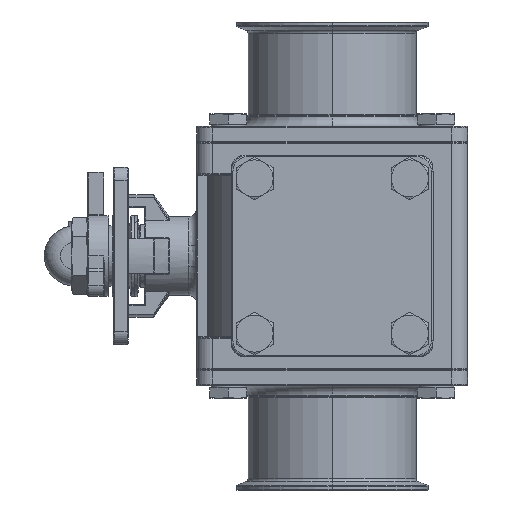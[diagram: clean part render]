
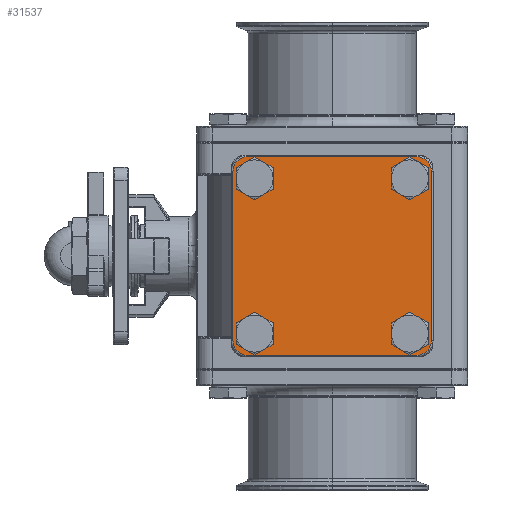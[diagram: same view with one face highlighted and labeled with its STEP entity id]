
A CAD part, left-side view. The second image highlights one B-rep face of the part: STEP entity #31537.
In plain terms, the highlighted planar face has unit normal (-1, 0, 0) as drawn and (0, 0, 1) by its records, which use the part's own axes.
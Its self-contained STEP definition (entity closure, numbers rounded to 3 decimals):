
#376 = CIRCLE ( 'NONE', #18868, 8.75 ) ;
#732 = CARTESIAN_POINT ( 'NONE',  ( 52.5, -52.5, 10. ) ) ;
#772 = FACE_BOUND ( 'NONE', #14001, .T. ) ;
#778 = EDGE_CURVE ( 'NONE', #4475, #28981, #2867, .T. ) ;
#1688 = CIRCLE ( 'NONE', #12218, 9. ) ;
#1858 = EDGE_CURVE ( 'NONE', #10447, #4904, #27067, .T. ) ;
#2082 = AXIS2_PLACEMENT_3D ( 'NONE', #25447, #19536, #33986 ) ;
#2234 = DIRECTION ( 'NONE',  ( 0., 0., 1. ) ) ;
#2321 = CARTESIAN_POINT ( 'NONE',  ( 52.5, 61.5, 10. ) ) ;
#2586 = CARTESIAN_POINT ( 'NONE',  ( -48.083, -48.083, 10. ) ) ;
#2867 = CIRCLE ( 'NONE', #16624, 9. ) ;
#3024 = VECTOR ( 'NONE', #14073, 1000. ) ;
#3334 = DIRECTION ( 'NONE',  ( 0., 0., 1. ) ) ;
#3384 = DIRECTION ( 'NONE',  ( 0., 0., 1. ) ) ;
#3586 = DIRECTION ( 'NONE',  ( 1., 0., 0. ) ) ;
#3760 = CARTESIAN_POINT ( 'NONE',  ( -48.083, -48.083, 10. ) ) ;
#4076 = DIRECTION ( 'NONE',  ( 0., 0., 1. ) ) ;
#4475 = VERTEX_POINT ( 'NONE', #22590 ) ;
#4904 = VERTEX_POINT ( 'NONE', #36224 ) ;
#4963 = CARTESIAN_POINT ( 'NONE',  ( 48.083, -48.083, 10. ) ) ;
#5220 = AXIS2_PLACEMENT_3D ( 'NONE', #9893, #10013, #18555 ) ;
#5290 = ORIENTED_EDGE ( 'NONE', *, *, #23312, .F. ) ;
#5706 = CARTESIAN_POINT ( 'NONE',  ( -52.5, 61.5, 10. ) ) ;
#5738 = ORIENTED_EDGE ( 'NONE', *, *, #1858, .F. ) ;
#5845 = DIRECTION ( 'NONE',  ( 0., 0., 1. ) ) ;
#5855 = CARTESIAN_POINT ( 'NONE',  ( -39.333, -48.083, 10. ) ) ;
#5948 = DIRECTION ( 'NONE',  ( 1., 0., 0. ) ) ;
#5965 = CARTESIAN_POINT ( 'NONE',  ( 39.333, -48.083, 10. ) ) ;
#6138 = VECTOR ( 'NONE', #15068, 1000. ) ;
#6231 = CARTESIAN_POINT ( 'NONE',  ( 39.333, 48.083, 10. ) ) ;
#6353 = EDGE_CURVE ( 'NONE', #7048, #17023, #13054, .T. ) ;
#6449 = FACE_BOUND ( 'NONE', #26177, .T. ) ;
#6593 = EDGE_LOOP ( 'NONE', ( #32574, #8487, #32829, #25555, #25529, #12445, #36478, #20031 ) ) ;
#6613 = VECTOR ( 'NONE', #5948, 1000. ) ;
#6795 = CARTESIAN_POINT ( 'NONE',  ( 61.5, 52.5, 10. ) ) ;
#6934 = VERTEX_POINT ( 'NONE', #22479 ) ;
#7048 = VERTEX_POINT ( 'NONE', #5965 ) ;
#7174 = AXIS2_PLACEMENT_3D ( 'NONE', #34116, #17706, #9063 ) ;
#7187 = AXIS2_PLACEMENT_3D ( 'NONE', #4963, #24665, #19101 ) ;
#7730 = CARTESIAN_POINT ( 'NONE',  ( 48.083, 48.083, 10. ) ) ;
#8446 = EDGE_CURVE ( 'NONE', #20344, #16891, #29320, .T. ) ;
#8487 = ORIENTED_EDGE ( 'NONE', *, *, #8446, .T. ) ;
#8554 = CARTESIAN_POINT ( 'NONE',  ( -61.5, -52.5, 10. ) ) ;
#8720 = VERTEX_POINT ( 'NONE', #6231 ) ;
#8817 = EDGE_CURVE ( 'NONE', #4904, #10447, #9807, .T. ) ;
#9063 = DIRECTION ( 'NONE',  ( 1., 0., 0. ) ) ;
#9160 = PLANE ( 'NONE',  #19468 ) ;
#9237 = VERTEX_POINT ( 'NONE', #15554 ) ;
#9807 = CIRCLE ( 'NONE', #5220, 8.75 ) ;
#9812 = DIRECTION ( 'NONE',  ( 1., 0., 0. ) ) ;
#9893 = CARTESIAN_POINT ( 'NONE',  ( -48.083, 48.083, 10. ) ) ;
#10013 = DIRECTION ( 'NONE',  ( 0., 0., 1. ) ) ;
#10179 = CARTESIAN_POINT ( 'NONE',  ( -48.083, 48.083, 10. ) ) ;
#10447 = VERTEX_POINT ( 'NONE', #24994 ) ;
#10531 = ORIENTED_EDGE ( 'NONE', *, *, #6353, .F. ) ;
#10597 = LINE ( 'NONE', #14746, #11051 ) ;
#10731 = AXIS2_PLACEMENT_3D ( 'NONE', #732, #22876, #25838 ) ;
#11051 = VECTOR ( 'NONE', #20661, 1000. ) ;
#11610 = EDGE_CURVE ( 'NONE', #30457, #30057, #24717, .T. ) ;
#11818 = DIRECTION ( 'NONE',  ( 1., 0., 0. ) ) ;
#11819 = CARTESIAN_POINT ( 'NONE',  ( 61.5, 52.5, 10. ) ) ;
#11821 = CARTESIAN_POINT ( 'NONE',  ( 52.5, -61.5, 10. ) ) ;
#11925 = AXIS2_PLACEMENT_3D ( 'NONE', #7730, #2234, #21055 ) ;
#12154 = FACE_OUTER_BOUND ( 'NONE', #6593, .T. ) ;
#12218 = AXIS2_PLACEMENT_3D ( 'NONE', #17043, #34200, #16933 ) ;
#12288 = EDGE_CURVE ( 'NONE', #30352, #6934, #16271, .T. ) ;
#12445 = ORIENTED_EDGE ( 'NONE', *, *, #20199, .T. ) ;
#13054 = CIRCLE ( 'NONE', #7187, 8.75 ) ;
#13597 = LINE ( 'NONE', #6795, #6138 ) ;
#14001 = EDGE_LOOP ( 'NONE', ( #26793, #5738 ) ) ;
#14036 = CARTESIAN_POINT ( 'NONE',  ( -61.5, 52.5, 10. ) ) ;
#14073 = DIRECTION ( 'NONE',  ( -1., 0., 0. ) ) ;
#14352 = CARTESIAN_POINT ( 'NONE',  ( 56.833, -48.083, 10. ) ) ;
#14589 = CIRCLE ( 'NONE', #36291, 8.75 ) ;
#14746 = CARTESIAN_POINT ( 'NONE',  ( -61.5, -52.5, 10. ) ) ;
#14881 = DIRECTION ( 'NONE',  ( 1., 0., 0. ) ) ;
#15068 = DIRECTION ( 'NONE',  ( 0., 1., 0. ) ) ;
#15554 = CARTESIAN_POINT ( 'NONE',  ( 56.833, 48.083, 10. ) ) ;
#16271 = CIRCLE ( 'NONE', #25134, 8.75 ) ;
#16624 = AXIS2_PLACEMENT_3D ( 'NONE', #20670, #4076, #14881 ) ;
#16787 = VERTEX_POINT ( 'NONE', #24253 ) ;
#16864 = DIRECTION ( 'NONE',  ( 1., 0., 0. ) ) ;
#16891 = VERTEX_POINT ( 'NONE', #2321 ) ;
#16933 = DIRECTION ( 'NONE',  ( 1., 0., 0. ) ) ;
#17023 = VERTEX_POINT ( 'NONE', #14352 ) ;
#17043 = CARTESIAN_POINT ( 'NONE',  ( -52.5, -52.5, 10. ) ) ;
#17396 = ORIENTED_EDGE ( 'NONE', *, *, #25640, .F. ) ;
#17706 = DIRECTION ( 'NONE',  ( 0., 0., 1. ) ) ;
#18555 = DIRECTION ( 'NONE',  ( 1., 0., 0. ) ) ;
#18868 = AXIS2_PLACEMENT_3D ( 'NONE', #2586, #27714, #16864 ) ;
#19101 = DIRECTION ( 'NONE',  ( 1., 0., 0. ) ) ;
#19468 = AXIS2_PLACEMENT_3D ( 'NONE', #20012, #5845, #25569 ) ;
#19536 = DIRECTION ( 'NONE',  ( 0., 0., 1. ) ) ;
#19712 = EDGE_CURVE ( 'NONE', #30057, #16787, #21521, .T. ) ;
#20012 = CARTESIAN_POINT ( 'NONE',  ( 52.5, -52.5, 10. ) ) ;
#20031 = ORIENTED_EDGE ( 'NONE', *, *, #19712, .T. ) ;
#20199 = EDGE_CURVE ( 'NONE', #29605, #30457, #1688, .T. ) ;
#20344 = VERTEX_POINT ( 'NONE', #11819 ) ;
#20661 = DIRECTION ( 'NONE',  ( 0., -1., 0. ) ) ;
#20670 = CARTESIAN_POINT ( 'NONE',  ( -52.5, 52.5, 10. ) ) ;
#21055 = DIRECTION ( 'NONE',  ( 1., 0., 0. ) ) ;
#21491 = EDGE_CURVE ( 'NONE', #28981, #29605, #10597, .T. ) ;
#21521 = CIRCLE ( 'NONE', #10731, 9. ) ;
#22479 = CARTESIAN_POINT ( 'NONE',  ( -56.833, -48.083, 10. ) ) ;
#22590 = CARTESIAN_POINT ( 'NONE',  ( -52.5, 61.5, 10. ) ) ;
#22876 = DIRECTION ( 'NONE',  ( 0., 0., 1. ) ) ;
#23158 = ORIENTED_EDGE ( 'NONE', *, *, #12288, .F. ) ;
#23232 = FACE_BOUND ( 'NONE', #25736, .T. ) ;
#23312 = EDGE_CURVE ( 'NONE', #17023, #7048, #27311, .T. ) ;
#23347 = LINE ( 'NONE', #5706, #3024 ) ;
#23738 = EDGE_CURVE ( 'NONE', #16891, #4475, #23347, .T. ) ;
#24106 = FACE_BOUND ( 'NONE', #33177, .T. ) ;
#24253 = CARTESIAN_POINT ( 'NONE',  ( 61.5, -52.5, 10. ) ) ;
#24665 = DIRECTION ( 'NONE',  ( 0., 0., 1. ) ) ;
#24717 = LINE ( 'NONE', #11821, #6613 ) ;
#24994 = CARTESIAN_POINT ( 'NONE',  ( -39.333, 48.083, 10. ) ) ;
#25134 = AXIS2_PLACEMENT_3D ( 'NONE', #3760, #3384, #11818 ) ;
#25447 = CARTESIAN_POINT ( 'NONE',  ( 52.5, 52.5, 10. ) ) ;
#25529 = ORIENTED_EDGE ( 'NONE', *, *, #21491, .T. ) ;
#25555 = ORIENTED_EDGE ( 'NONE', *, *, #778, .T. ) ;
#25569 = DIRECTION ( 'NONE',  ( 1., 0., 0. ) ) ;
#25640 = EDGE_CURVE ( 'NONE', #8720, #9237, #14589, .T. ) ;
#25736 = EDGE_LOOP ( 'NONE', ( #17396, #31370 ) ) ;
#25838 = DIRECTION ( 'NONE',  ( 1., 0., 0. ) ) ;
#26177 = EDGE_LOOP ( 'NONE', ( #26572, #23158 ) ) ;
#26572 = ORIENTED_EDGE ( 'NONE', *, *, #29409, .F. ) ;
#26793 = ORIENTED_EDGE ( 'NONE', *, *, #8817, .F. ) ;
#27067 = CIRCLE ( 'NONE', #31093, 8.75 ) ;
#27311 = CIRCLE ( 'NONE', #7174, 8.75 ) ;
#27587 = CIRCLE ( 'NONE', #11925, 8.75 ) ;
#27714 = DIRECTION ( 'NONE',  ( 0., 0., 1. ) ) ;
#28182 = CARTESIAN_POINT ( 'NONE',  ( -52.5, -61.5, 10. ) ) ;
#28981 = VERTEX_POINT ( 'NONE', #14036 ) ;
#29320 = CIRCLE ( 'NONE', #2082, 9. ) ;
#29409 = EDGE_CURVE ( 'NONE', #6934, #30352, #376, .T. ) ;
#29598 = DIRECTION ( 'NONE',  ( 0., 0., 1. ) ) ;
#29605 = VERTEX_POINT ( 'NONE', #8554 ) ;
#30057 = VERTEX_POINT ( 'NONE', #33186 ) ;
#30352 = VERTEX_POINT ( 'NONE', #5855 ) ;
#30457 = VERTEX_POINT ( 'NONE', #28182 ) ;
#31093 = AXIS2_PLACEMENT_3D ( 'NONE', #10179, #29598, #9812 ) ;
#31370 = ORIENTED_EDGE ( 'NONE', *, *, #32402, .F. ) ;
#31537 = ADVANCED_FACE ( 'NONE', ( #12154, #6449, #23232, #24106, #772 ), #9160, .T. ) ;
#31570 = CARTESIAN_POINT ( 'NONE',  ( 48.083, 48.083, 10. ) ) ;
#32402 = EDGE_CURVE ( 'NONE', #9237, #8720, #27587, .T. ) ;
#32574 = ORIENTED_EDGE ( 'NONE', *, *, #33880, .T. ) ;
#32829 = ORIENTED_EDGE ( 'NONE', *, *, #23738, .T. ) ;
#33177 = EDGE_LOOP ( 'NONE', ( #10531, #5290 ) ) ;
#33186 = CARTESIAN_POINT ( 'NONE',  ( 52.5, -61.5, 10. ) ) ;
#33880 = EDGE_CURVE ( 'NONE', #16787, #20344, #13597, .T. ) ;
#33986 = DIRECTION ( 'NONE',  ( 1., 0., 0. ) ) ;
#34116 = CARTESIAN_POINT ( 'NONE',  ( 48.083, -48.083, 10. ) ) ;
#34200 = DIRECTION ( 'NONE',  ( 0., 0., 1. ) ) ;
#36224 = CARTESIAN_POINT ( 'NONE',  ( -56.833, 48.083, 10. ) ) ;
#36291 = AXIS2_PLACEMENT_3D ( 'NONE', #31570, #3334, #3586 ) ;
#36478 = ORIENTED_EDGE ( 'NONE', *, *, #11610, .T. ) ;
